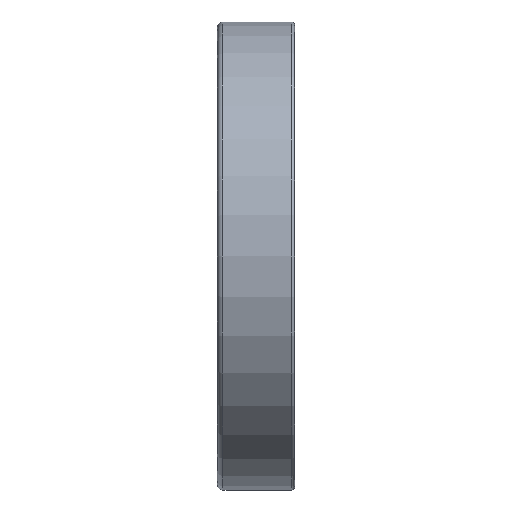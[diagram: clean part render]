
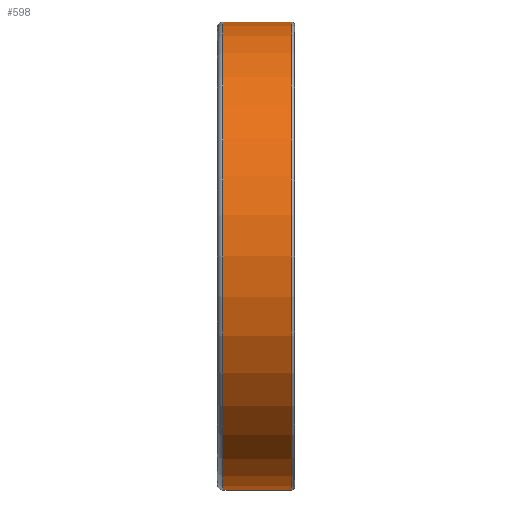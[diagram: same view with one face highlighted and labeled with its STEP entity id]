
A CAD part, front view. The second image highlights one B-rep face of the part: STEP entity #598.
In plain terms, the highlighted cylindrical face has radius 85 mm (diameter 170 mm), a full revolution.
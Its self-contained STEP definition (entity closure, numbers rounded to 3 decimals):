
#176=CYLINDRICAL_SURFACE('',#946,85.);
#288=EDGE_LOOP('',(#412));
#289=EDGE_LOOP('',(#413));
#412=ORIENTED_EDGE('',*,*,#482,.F.);
#413=ORIENTED_EDGE('',*,*,#480,.T.);
#480=EDGE_CURVE('',#867,#867,#500,.T.);
#482=EDGE_CURVE('',#869,#869,#502,.T.);
#500=CIRCLE('',#942,85.);
#502=CIRCLE('',#945,85.);
#598=ADVANCED_FACE('',(#757,#758),#176,.T.);
#757=FACE_BOUND('',#288,.T.);
#758=FACE_BOUND('',#289,.T.);
#867=VERTEX_POINT('',#2010);
#869=VERTEX_POINT('',#2015);
#942=AXIS2_PLACEMENT_3D('',#2009,#1079,#1080);
#945=AXIS2_PLACEMENT_3D('',#2014,#1085,#1086);
#946=AXIS2_PLACEMENT_3D('',#2016,#1087,#1088);
#1079=DIRECTION('',(1.,0.,0.));
#1080=DIRECTION('',(0.,0.,-1.));
#1085=DIRECTION('',(1.,0.,0.));
#1086=DIRECTION('',(0.,0.,-1.));
#1087=DIRECTION('',(1.,0.,0.));
#1088=DIRECTION('',(0.,0.,-1.));
#2009=CARTESIAN_POINT('',(-12.,0.,0.));
#2010=CARTESIAN_POINT('',(-12.,0.,-85.));
#2014=CARTESIAN_POINT('',(13.,0.,0.));
#2015=CARTESIAN_POINT('',(13.,0.,-85.));
#2016=CARTESIAN_POINT('',(-12.,0.,0.));
